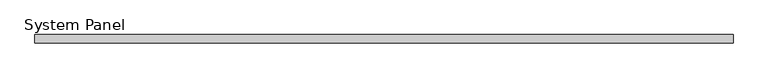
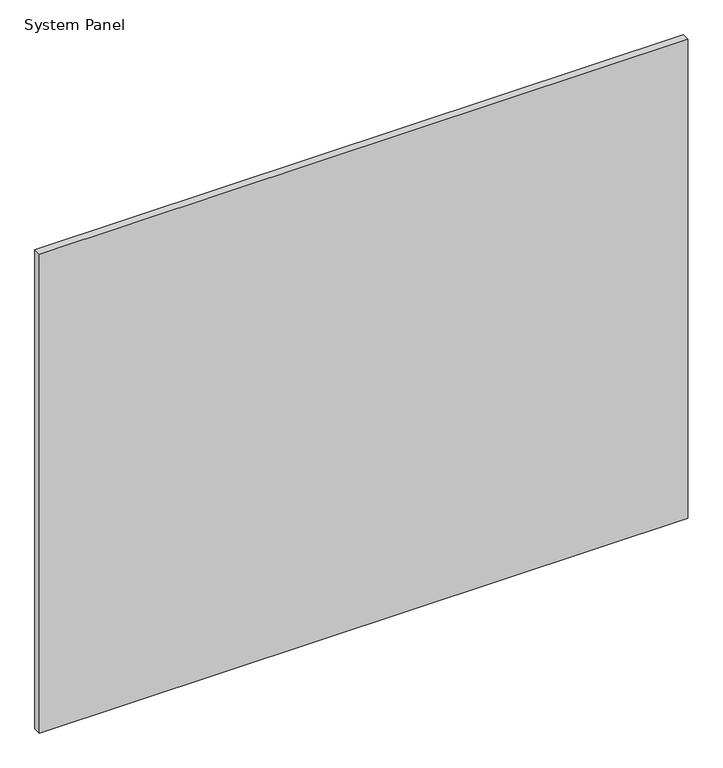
"""IFC4 building model written with IfcOpenShell, lengths in millimetres: plate geometry."""

from ifc_helpers import new_model, si_unit, origin, origin_with_axes, place, context, project, spatial, polyline, outline, extrude, source, transform, mapped, element, save


def system_panel_e3e1f07d(model_context):
    return source(origin(), model_context, "Body", "SweptSolid", [
        extrude(outline(polyline([(1577.18125, -19.05), (-1577.18125, -19.05), (-1577.18125, 19.05), (1577.18125, 19.05), (1577.18125, -19.05)])), origin_with_axes(), (0.0, 0.0, 1.0), 2463.8),
    ])


if __name__ == "__main__":
    model = new_model("IFC4")
    model_context = context("Model", 3, world=origin())
    ifc_project = project(units=[si_unit("LENGTHUNIT", "METRE", prefix="MILLI")], contexts=[model_context])
    site = spatial("IfcSite", under=ifc_project)
    building = spatial("IfcBuilding", under=site)
    placement = place(None, origin())
    system_panel_shape = system_panel_e3e1f07d(model_context)
    element("IfcPlate", 1, ObjectType="System Panel : 1/2\" Plywood & 1\" Rigid Ins.", at=placement, inside=building, context=model_context, shape_type="MappedRepresentation", body=[
        mapped(system_panel_shape, transform((0.0, 0.0, 0.0), x_axis=(1.0, 0.0, 0.0), y_axis=(0.0, 1.0, 0.0), z_axis=(0.0, 0.0, 1.0))),
    ])
    save(model, "model.ifc")
